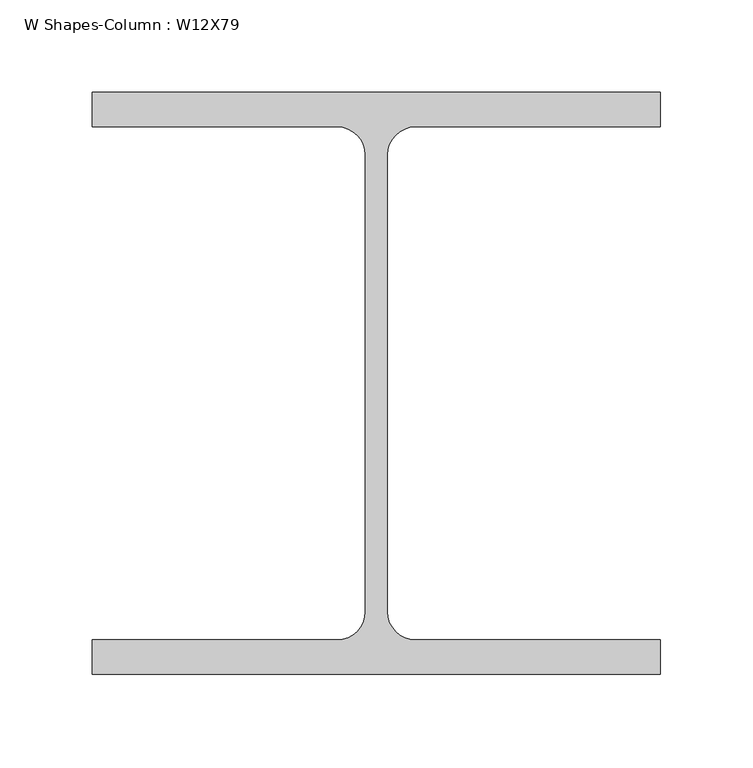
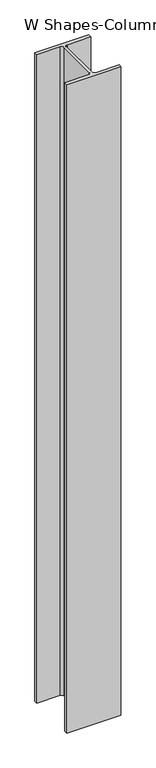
"""IFC4 building model written with IfcOpenShell, lengths in millimetres: column geometry, W Shapes-Column : W12X79."""

from ifc_helpers import new_model, si_unit, point, frame, frame_2d, origin, place, context, project, spatial, polyline, circle_curve, trimmed, segment, composite_curve, outline, extrude, source, transform, mapped, element, save


def w_shapes_column_w12x79_b89a37d1(model_context):
    return source(origin(), model_context, "Body", "SweptSolid", [
        extrude(outline(composite_curve([segment(polyline([(153.67, 157.48), (153.67, 138.811), (21.082, 138.811)]), True, "CONTINUOUS"), segment(trimmed(circle_curve(frame_2d((21.082, 123.698)), 15.113), [point((21.082, 138.811))], [point((5.969, 123.698))], True, "CARTESIAN"), True, "CONTINUOUS"), segment(polyline([(5.969, 123.698), (5.969, -123.698)]), True, "CONTINUOUS"), segment(trimmed(circle_curve(frame_2d((21.082, -123.698)), 15.113), [point((5.969, -123.698))], [point((21.082, -138.811))], True, "CARTESIAN"), True, "CONTINUOUS"), segment(polyline([(21.082, -138.811), (153.67, -138.811), (153.67, -157.48), (-153.67, -157.48), (-153.67, -138.811), (-21.082, -138.811)]), True, "CONTINUOUS"), segment(trimmed(circle_curve(frame_2d((-21.082, -123.698)), 15.113), [point((-21.082, -138.811))], [point((-5.969, -123.698))], True, "CARTESIAN"), True, "CONTINUOUS"), segment(polyline([(-5.969, -123.698), (-5.969, 123.698)]), True, "CONTINUOUS"), segment(trimmed(circle_curve(frame_2d((-21.082, 123.698)), 15.113), [point((-5.969, 123.698))], [point((-21.082, 138.811))], True, "CARTESIAN"), True, "CONTINUOUS"), segment(polyline([(-21.082, 138.811), (-153.67, 138.811), (-153.67, 157.48), (153.67, 157.48)]), True, "CONTINUOUS")], self_intersect=False)), frame((0.0, 0.0, 4695.0), z_axis=(0.0, 0.0, 1.0), x_axis=(1.0, 0.0, 0.0)), (0.0, 0.0, 1.0), 3900.0),
    ])


if __name__ == "__main__":
    model = new_model("IFC4")
    model_context = context("Model", 3, world=origin())
    ifc_project = project(units=[si_unit("LENGTHUNIT", "METRE", prefix="MILLI")], contexts=[model_context])
    site = spatial("IfcSite", under=ifc_project)
    building = spatial("IfcBuilding", under=site)
    placement = place(None, origin())
    w_shapes_column_w12x79_shape = w_shapes_column_w12x79_b89a37d1(model_context)
    element("IfcColumn", 1, ObjectType="W Shapes-Column : W12X79", at=placement, inside=building, context=model_context, shape_type="MappedRepresentation", body=[
        mapped(w_shapes_column_w12x79_shape, transform((0.0, 0.0, 0.0), x_axis=(1.0, 0.0, 0.0), y_axis=(0.0, 1.0, 0.0), z_axis=(0.0, 0.0, 1.0))),
    ])
    save(model, "model.ifc")
